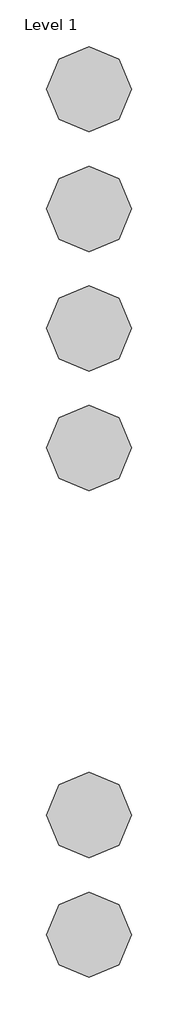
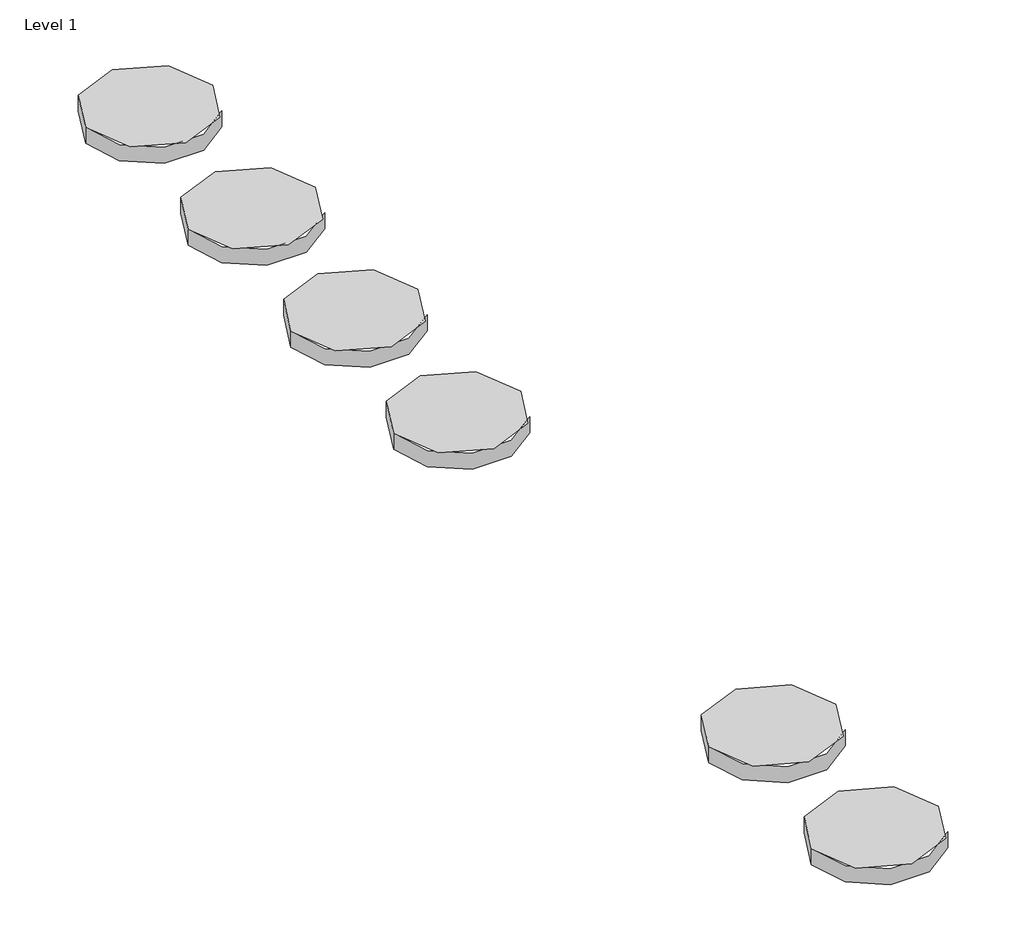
# One storey, incomplete: 6 proxies.
"""IFC4 building model written with IfcOpenShell, lengths in millimetres."""

from ifc_helpers import new_model, si_unit, origin, place, context, project, spatial, transform, mapped, element, save
from components import materialmodel1_materialmodel_2_5a34246c

model = new_model("IFC4")

# Units and contexts
model_context = context("Model", 3, world=origin())
ifc_project = project(units=[si_unit("LENGTHUNIT", "METRE", prefix="MILLI")], contexts=[model_context])

# Site, building, storey
site = spatial("IfcSite", under=ifc_project)
building = spatial("IfcBuilding", under=site)
storey = spatial("IfcBuildingStorey", under=building, Name="Level 1", Elevation=0.0)

# Proxies
placement = place(None, origin())
materialmodel1_materialmodel_2_shape = materialmodel1_materialmodel_2_5a34246c(model_context)
element("IfcBuildingElementProxy", 1, Name="MaterialModel1 : MaterialModel 2", ObjectType="MaterialModel1 : MaterialModel 2", at=placement, inside=storey, context=model_context, shape_type="MappedRepresentation", body=[
    mapped(materialmodel1_materialmodel_2_shape, transform((-11669.4068312, 6878.0802738, 0.0), x_axis=(1.0, 0.0, 0.0), y_axis=(0.0, 1.0, 0.0), z_axis=(0.0, 0.0, 1.0))),
])
element("IfcBuildingElementProxy", 2, Name="MaterialModel1 : MaterialModel 2", ObjectType="MaterialModel1 : MaterialModel 2", at=placement, inside=storey, context=model_context, shape_type="MappedRepresentation", body=[
    mapped(materialmodel1_materialmodel_2_shape, transform((-11669.4068312, 5603.0802738, 0.0), x_axis=(1.0, 0.0, 0.0), y_axis=(0.0, 1.0, 0.0), z_axis=(0.0, 0.0, 1.0))),
])
element("IfcBuildingElementProxy", 3, Name="MaterialModel1 : MaterialModel 2", ObjectType="MaterialModel1 : MaterialModel 2", at=placement, inside=storey, context=model_context, shape_type="MappedRepresentation", body=[
    mapped(materialmodel1_materialmodel_2_shape, transform((-11669.4068312, 5393.0802738, 0.0), x_axis=(1.0, 0.0, 0.0), y_axis=(0.0, 1.0, 0.0), z_axis=(0.0, 0.0, 1.0))),
])
element("IfcBuildingElementProxy", 4, Name="MaterialModel1 : MaterialModel 2", ObjectType="MaterialModel1 : MaterialModel 2", at=placement, inside=storey, context=model_context, shape_type="MappedRepresentation", body=[
    mapped(materialmodel1_materialmodel_2_shape, transform((-11669.4068312, 6668.0802738, 0.0), x_axis=(1.0, 0.0, 0.0), y_axis=(0.0, 1.0, 0.0), z_axis=(0.0, 0.0, 1.0))),
])
element("IfcBuildingElementProxy", 5, Name="MaterialModel1 : MaterialModel 2", ObjectType="MaterialModel1 : MaterialModel 2", at=placement, inside=storey, context=model_context, shape_type="MappedRepresentation", body=[
    mapped(materialmodel1_materialmodel_2_shape, transform((-11669.4068312, 6458.0802738, 0.0), x_axis=(1.0, 0.0, 0.0), y_axis=(0.0, 1.0, 0.0), z_axis=(0.0, 0.0, 1.0))),
])
element("IfcBuildingElementProxy", 6, Name="MaterialModel1 : MaterialModel 2", ObjectType="MaterialModel1 : MaterialModel 2", at=placement, inside=storey, context=model_context, shape_type="MappedRepresentation", body=[
    mapped(materialmodel1_materialmodel_2_shape, transform((-11669.4068312, 6248.0802738, 0.0), x_axis=(1.0, 0.0, 0.0), y_axis=(0.0, 1.0, 0.0), z_axis=(0.0, 0.0, 1.0))),
])

save(model, "model.ifc")
